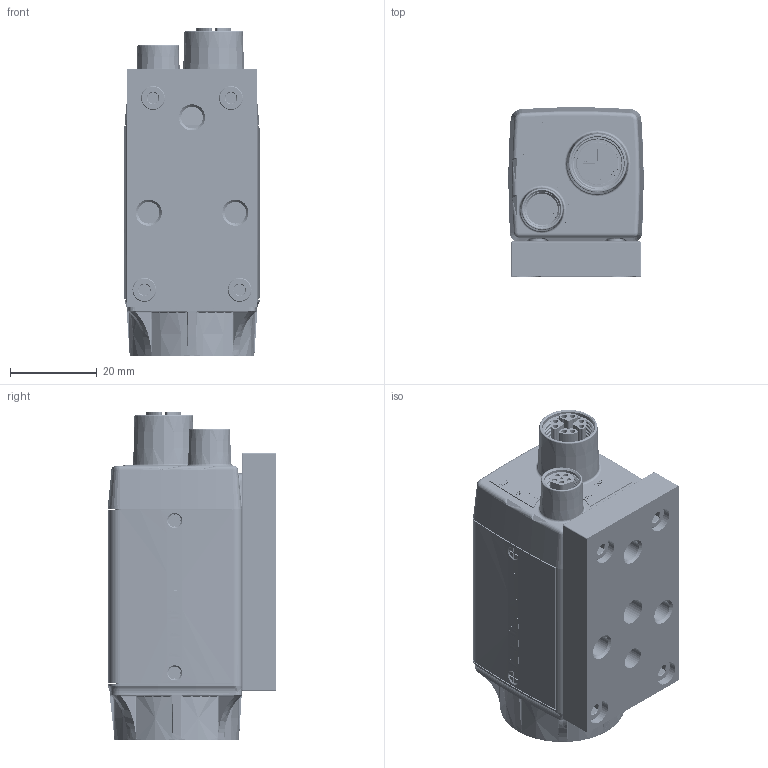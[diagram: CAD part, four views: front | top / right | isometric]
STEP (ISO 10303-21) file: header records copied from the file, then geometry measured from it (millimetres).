
FILE_DESCRIPTION (( 'STEP AP214' ), '1' );
FILE_NAME ('IS010-07_11-9-15.STEP', '2015-11-10T18:44:10', ( '' ), ( '' ), 'SwSTEP 2.0', 'SolidWorks 2014', '' );
FILE_SCHEMA (( 'AUTOMOTIVE_DESIGN' ));
Length unit declared in the file: millimetre
Products named in the file (2): IS010-07_11-9-15
Bounding box: 31.22 x 38.96 x 75.83 mm (x, y, z)
Volume: 54935.2 mm3; surface area: 33795.4 mm2
Topology: 41 solids, 48 shells, 3975 faces, 10055 edges, 6272 vertices
Faces by surface type: cylinder 1351, plane 1295, bspline 608, cone 453, torus 142, sphere 126
Entity records: 177794 total; most frequent: CARTESIAN_POINT 78371, ORIENTED_EDGE 19994, DIRECTION 16673, EDGE_CURVE 9997, VERTEX_POINT 6272, AXIS2_PLACEMENT_3D 6169, LINE 4335, VECTOR 4335
